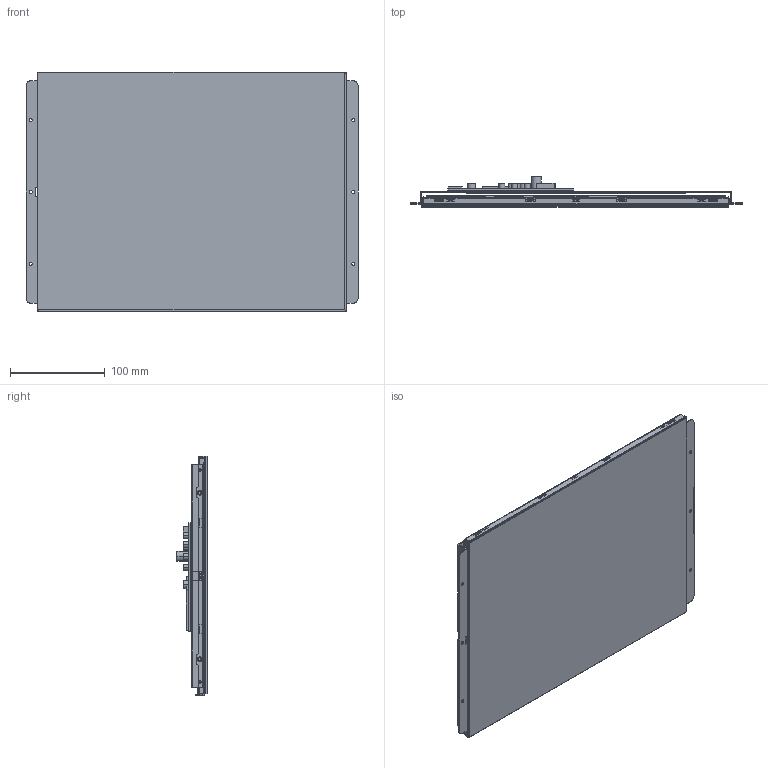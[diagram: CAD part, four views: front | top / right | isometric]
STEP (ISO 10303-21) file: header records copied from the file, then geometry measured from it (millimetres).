
FILE_DESCRIPTION((''),'2;1');
FILE_NAME('3D-DMG10768T150-01WTR-211117_ASM','2023-04-26T',('Administrator'),(''),'PRO/ENGINEER BY PARAMETRIC TECHNOLOGY CORPORATION, 2011310','PRO/ENGINEER BY PARAMETRIC TECHNOLOGY CORPORATION, 2011310','');
FILE_SCHEMA(('CONFIG_CONTROL_DESIGN','SHAPE_APPEARANCE_LAYERS_GROUPS'));
Products named in the file (8): TK150003A_29; BREP_WITH_VOIDS_55910; MANIFOLD_SOLID_BREP_56060; HM150X01-N0_7_ASM; YF15001_5; DMG10768T150-01WTR-PCB_8; DMG10768T150-01WTR_ASM_13_ASM; 3D-DMG10768T150-01WTR-211117_ASM
Assembly tree (7 placements, depth 4):
  3D-DMG10768T150-01WTR-211117_ASM
    DMG10768T150-01WTR_ASM_13_ASM
      TK150003A_29
      HM150X01-N0_7_ASM
        BREP_WITH_VOIDS_55910
        MANIFOLD_SOLID_BREP_56060
      YF15001_5
      DMG10768T150-01WTR-PCB_8
Bounding box: 351 x 32 x 253.5 mm (x, y, z)
Volume: 436501.1 mm3; surface area: 781076.9 mm2
Topology: 5 solids, 7 shells, 1815 faces, 19953 edges, 28508 vertices
Faces by surface type: plane 1322, cylinder 410, torus 47, sphere 20, cone 12, bspline 4
Entity records: 182347 total; most frequent: DIRECTION 28892, CARTESIAN_POINT 25761, CURVE_STYLE 14917, PRESENTATION_STYLE_ASSIGNMENT 14917, STYLED_ITEM 14917, TRIMMED_CURVE 14897, VECTOR 14488, LINE 14488
